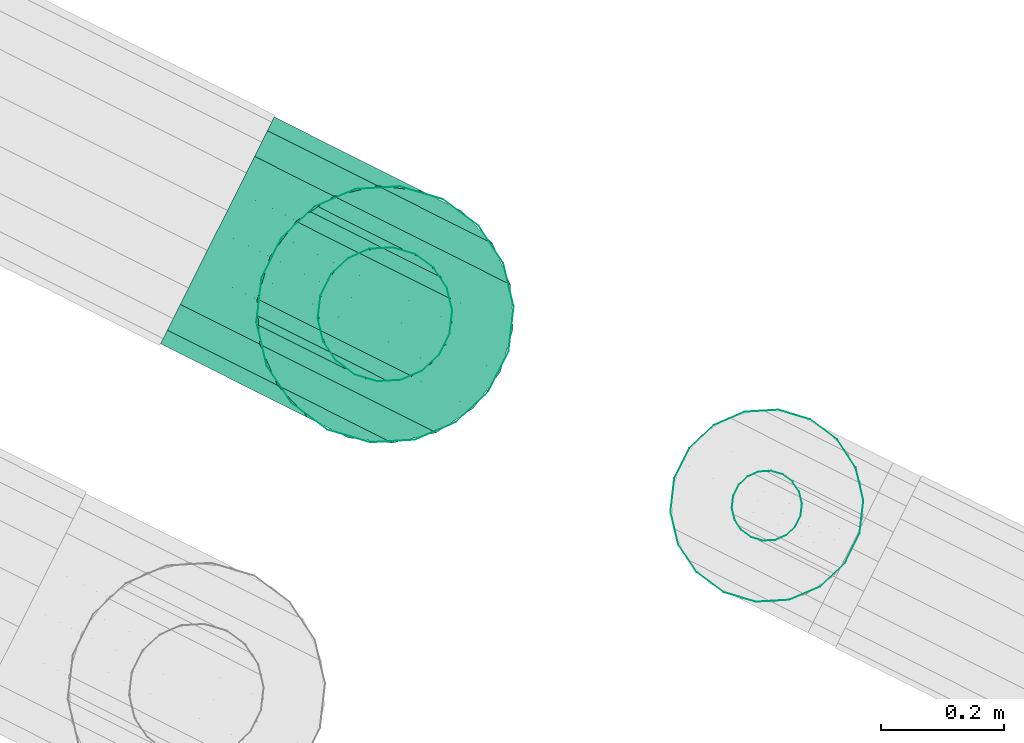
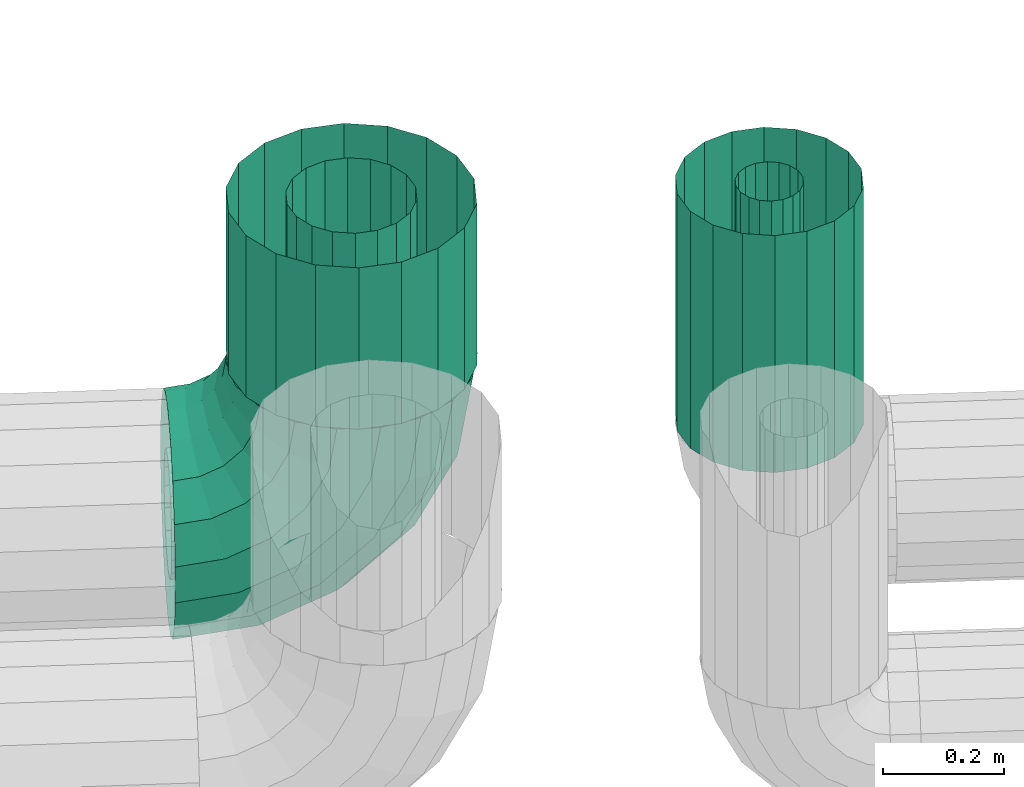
# One storey, part 169 of 206: 3 flow segments.
"""IFC2X3 building model written with IfcOpenShell, lengths in metres."""

from ifc_helpers import new_model, si_unit, derived_unit, direction, frame, origin, place, context, subcontext, project, spatial, face_set, surface_model, source, transform, mapped, material, type_object, type_shapes, element, save


model = new_model("IFC2X3")

# Units and contexts
model_context = context("Model", 3, precision=5.2338327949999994e-05, world=origin(), true_north=direction((0.0, 1.0)))
body_context = subcontext(model_context, "Body", "Model", "MODEL_VIEW")
ifc_project = project(units=[si_unit("LENGTHUNIT", "METRE"), si_unit("AREAUNIT", "SQUARE_METRE"), si_unit("VOLUMEUNIT", "CUBIC_METRE"), si_unit("MASSUNIT", "GRAM", prefix="KILO"), si_unit("PLANEANGLEUNIT", "RADIAN"), derived_unit("THERMALTRANSMITTANCEUNIT", [(si_unit("MASSUNIT", "GRAM", prefix="KILO"), 1), (si_unit("THERMODYNAMICTEMPERATUREUNIT", "KELVIN"), -1), (si_unit("TIMEUNIT", "SECOND"), -3)])], contexts=[model_context])

# Site, building, storey
site_placement = place(None, frame((0.0, 0.0, 0.0), z_axis=(0.0, 0.0, 1.0), x_axis=(0.8939966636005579, -0.4480736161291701, 0.0)))
site = spatial("IfcSite", under=ifc_project, at=site_placement, Name="Default", CompositionType="ELEMENT")
building_placement = place(site_placement, origin())
building = spatial("IfcBuilding", under=site, at=building_placement, CompositionType="ELEMENT")
storey_placement = place(building_placement, origin())
storey = spatial("IfcBuildingStorey", under=building, at=storey_placement, Name="Erdgeschoss", CompositionType="ELEMENT", Elevation=0.0)

# Flow segments
ifc_material = material(Name="IfcSurfaceStyle #1741")
distribution_element_type_1 = type_object("IfcDistributionElementType", Name="Rohrbogen 304636:Rohrbogen 304636", material=ifc_material)
shared_shape_1 = source(origin(), body_context, "Body", "SurfaceModel", [
    surface_model("IfcFaceBasedSurfaceModel", [(6.282437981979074, 8.012208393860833, 2.2082484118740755), (6.282437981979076, 8.049676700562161, 2.2148550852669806), (6.408499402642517, 8.049676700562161, 2.2348212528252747), (6.410540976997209, 8.012208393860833, 2.228537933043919), (6.522221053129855, 8.049676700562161, 2.2927653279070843), (6.526104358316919, 8.012208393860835, 2.2874204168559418), (6.612471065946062, 8.049676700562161, 2.383015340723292), (6.61781597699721, 8.012208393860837, 2.379132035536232), (6.670415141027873, 8.049676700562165, 2.496736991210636), (6.6766984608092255, 8.012208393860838, 2.4946954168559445), (6.690381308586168, 8.049676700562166, 2.6227984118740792), (6.696987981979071, 8.01220839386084, 2.62279841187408), (6.282437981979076, 8.082625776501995, 2.2338782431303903), (6.402620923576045, 8.082625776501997, 2.2529133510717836), (6.51103952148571, 8.082625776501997, 2.308155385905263), (6.597081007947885, 8.082625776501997, 2.3941968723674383), (6.652323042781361, 8.082625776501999, 2.5026154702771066), (6.671358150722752, 8.082625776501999, 2.6227984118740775), (6.282437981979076, 8.107081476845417, 2.263023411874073), (6.393614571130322, 8.10708147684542, 2.2806320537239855), (6.493908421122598, 8.107081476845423, 2.331734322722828), (6.573502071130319, 8.107081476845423, 2.411327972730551), (6.624604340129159, 8.107081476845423, 2.5116218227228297), (6.6422129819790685, 8.107081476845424, 2.622798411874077), (6.282437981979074, 8.120094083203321, 2.2987752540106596), (6.382566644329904, 8.120094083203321, 2.3146340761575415), (6.4728940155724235, 8.120094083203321, 2.3606581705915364), (6.54457822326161, 8.120094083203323, 2.4323423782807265), (6.590602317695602, 8.120094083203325, 2.5226697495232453), (6.606461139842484, 8.120094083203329, 2.6227984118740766), (6.282437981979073, 8.120094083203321, 2.3368215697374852), (6.37080968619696, 8.120094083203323, 2.3508182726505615), (6.450530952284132, 8.120094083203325, 2.39143828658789), (6.513798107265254, 8.120094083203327, 2.454705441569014), (6.554418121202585, 8.120094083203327, 2.5344267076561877), (6.568414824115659, 8.120094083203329, 2.6227984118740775), (6.282437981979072, 8.107081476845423, 2.3725734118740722), (6.3597617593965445, 8.107081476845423, 2.3848202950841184), (6.429516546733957, 8.107081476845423, 2.420362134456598), (6.484874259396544, 8.107081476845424, 2.4757198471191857), (6.520416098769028, 8.107081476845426, 2.5454746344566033), (6.5326629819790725, 8.107081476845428, 2.6227984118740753), (6.282437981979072, 8.082625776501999, 2.4017185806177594), (6.350755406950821, 8.082625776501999, 2.4125389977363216), (6.412385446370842, 8.082625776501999, 2.443941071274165), (6.461295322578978, 8.082625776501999, 2.492850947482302), (6.492697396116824, 8.082625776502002, 2.554480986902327), (6.503517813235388, 8.082625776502, 2.6227984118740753), (6.282437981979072, 8.049676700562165, 2.420741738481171), (6.344876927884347, 8.049676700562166, 2.4306310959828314), (6.401203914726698, 8.049676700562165, 2.4593311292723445), (6.4459052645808, 8.049676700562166, 2.5040324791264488), (6.474605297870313, 8.049676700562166, 2.560359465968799), (6.484494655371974, 8.049676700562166, 2.6227984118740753), (6.282437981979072, 8.012208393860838, 2.4273484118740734), (6.342835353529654, 8.01220839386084, 2.4369144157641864), (6.397320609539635, 8.01220839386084, 2.4646760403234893), (6.440560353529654, 8.01220839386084, 2.507915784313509), (6.46832197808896, 8.012208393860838, 2.56240104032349), (6.477887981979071, 8.012208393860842, 2.6227984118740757), (6.282437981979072, 7.974740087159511, 2.4207417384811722), (6.344876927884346, 7.974740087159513, 2.4306310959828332), (6.401203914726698, 7.974740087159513, 2.459331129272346), (6.445905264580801, 7.974740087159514, 2.5040324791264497), (6.474605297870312, 7.974740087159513, 2.5603594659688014), (6.484494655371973, 7.974740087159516, 2.622798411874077), (6.282437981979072, 7.941791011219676, 2.4017185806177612), (6.350755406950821, 7.941791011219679, 2.412538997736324), (6.412385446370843, 7.941791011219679, 2.4439410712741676), (6.461295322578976, 7.94179101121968, 2.492850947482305), (6.492697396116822, 7.941791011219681, 2.55448098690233), (6.503517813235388, 7.941791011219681, 2.622798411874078), (6.282437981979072, 7.917335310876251, 2.3725734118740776), (6.3597617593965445, 7.91733531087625, 2.384820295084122), (6.429516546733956, 7.917335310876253, 2.420362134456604), (6.484874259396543, 7.917335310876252, 2.475719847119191), (6.520416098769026, 7.917335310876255, 2.545474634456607), (6.532662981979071, 7.917335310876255, 2.6227984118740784), (6.282437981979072, 7.904322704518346, 2.336821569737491), (6.370809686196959, 7.904322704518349, 2.3508182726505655), (6.450530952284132, 7.904322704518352, 2.391438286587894), (6.513798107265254, 7.904322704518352, 2.4547054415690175), (6.554418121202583, 7.904322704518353, 2.534426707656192), (6.568414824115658, 7.9043227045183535, 2.622798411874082), (6.282437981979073, 7.904322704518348, 2.298775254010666), (6.382566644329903, 7.904322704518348, 2.3146340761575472), (6.472894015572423, 7.904322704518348, 2.3606581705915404), (6.544578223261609, 7.904322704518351, 2.4323423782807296), (6.590602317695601, 7.904322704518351, 2.5226697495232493), (6.606461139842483, 7.904322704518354, 2.6227984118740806), (6.282437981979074, 7.917335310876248, 2.263023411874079), (6.393614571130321, 7.917335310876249, 2.280632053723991), (6.4939084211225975, 7.91733531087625, 2.331734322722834), (6.573502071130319, 7.917335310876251, 2.411327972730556), (6.624604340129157, 7.917335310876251, 2.5116218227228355), (6.6422129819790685, 7.917335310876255, 2.6227984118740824), (6.282437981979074, 7.941791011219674, 2.233878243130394), (6.402620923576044, 7.941791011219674, 2.252913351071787), (6.51103952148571, 7.941791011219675, 2.3081553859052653), (6.597081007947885, 7.941791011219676, 2.3941968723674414), (6.65232304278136, 7.94179101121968, 2.502615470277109), (6.671358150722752, 7.941791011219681, 2.62279841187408), (6.282437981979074, 7.974740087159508, 2.2148550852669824), (6.408499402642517, 7.974740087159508, 2.234821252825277), (6.522221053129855, 7.9747400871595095, 2.2927653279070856), (6.612471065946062, 7.974740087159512, 2.383015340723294), (6.670415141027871, 7.974740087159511, 2.4967369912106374), (6.690381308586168, 7.974740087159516, 2.62279841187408), (6.2824379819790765, 8.012208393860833, 2.1082484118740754), (6.282437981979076, 8.083878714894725, 2.1208858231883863), (6.437537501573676, 8.083878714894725, 2.1454511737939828), (6.441442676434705, 8.012208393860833, 2.133432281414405), (6.577454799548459, 8.083878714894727, 2.2167425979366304), (6.584882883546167, 8.012208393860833, 2.2065187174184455), (6.688493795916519, 8.083878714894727, 2.3277815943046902), (6.698717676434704, 8.012208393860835, 2.3203535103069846), (6.759785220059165, 8.083878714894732, 2.4676988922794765), (6.771804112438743, 8.012208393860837, 2.4637937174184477), (6.784350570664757, 8.083878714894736, 2.622798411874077), (6.796987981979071, 8.012208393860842, 2.62279841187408), (6.2824379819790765, 8.146904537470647, 2.157273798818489), (6.426292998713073, 8.146904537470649, 2.1800581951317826), (6.556066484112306, 8.146904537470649, 2.2461810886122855), (6.659055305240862, 8.14690453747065, 2.3491699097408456), (6.725178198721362, 8.146904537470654, 2.478943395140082), (6.747962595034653, 8.146904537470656, 2.62279841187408), (6.282437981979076, 8.193684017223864, 2.2130234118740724), (6.409065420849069, 8.193684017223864, 2.233079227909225), (6.523297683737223, 8.193684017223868, 2.29128347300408), (6.6139529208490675, 8.193684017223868, 2.3819387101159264), (6.672157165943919, 8.19368401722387, 2.4961709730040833), (6.69221298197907, 8.193684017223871, 2.6227984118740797), (6.282437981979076, 8.218574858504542, 2.2814104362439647), (6.387932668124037, 8.218574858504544, 2.2981191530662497), (6.483100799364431, 8.218574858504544, 2.3466097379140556), (6.558626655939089, 8.218574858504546, 2.4221355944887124), (6.607117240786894, 8.218574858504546, 2.51730372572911), (6.623825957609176, 8.21857485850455, 2.622798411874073), (6.282437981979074, 8.218574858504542, 2.354186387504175), (6.365443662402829, 8.218574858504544, 2.3673331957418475), (6.440324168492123, 8.218574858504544, 2.4054867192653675), (6.4997496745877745, 8.218574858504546, 2.464912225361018), (6.537903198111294, 8.218574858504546, 2.5397927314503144), (6.551050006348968, 8.218574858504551, 2.622798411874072), (6.282437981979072, 8.193684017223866, 2.42257341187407), (6.344310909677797, 8.193684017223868, 2.4323731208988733), (6.400127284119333, 8.19368401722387, 2.460812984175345), (6.444423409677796, 8.193684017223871, 2.5051091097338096), (6.472863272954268, 8.193684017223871, 2.560925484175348), (6.482662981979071, 8.193684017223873, 2.6227984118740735), (6.282437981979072, 8.146904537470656, 2.4783230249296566), (6.327083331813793, 8.146904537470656, 2.4853941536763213), (6.3673584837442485, 8.146904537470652, 2.5059153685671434), (6.3993210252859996, 8.146904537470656, 2.5378779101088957), (6.419842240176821, 8.146904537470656, 2.578153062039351), (6.426913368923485, 8.146904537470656, 2.622798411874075), (6.282437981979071, 8.083878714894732, 2.5147110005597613), (6.315838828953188, 8.083878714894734, 2.5200011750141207), (6.345970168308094, 8.083878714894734, 2.5353538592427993), (6.369882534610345, 8.083878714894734, 2.55926622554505), (6.385235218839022, 8.083878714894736, 2.5893975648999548), (6.390525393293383, 8.083878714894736, 2.622798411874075), (6.282437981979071, 8.01220839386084, 2.5273484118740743), (6.311933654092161, 8.012208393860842, 2.532020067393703), (6.338542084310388, 8.01220839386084, 2.545577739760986), (6.3596586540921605, 8.012208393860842, 2.5666943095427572), (6.373216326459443, 8.012208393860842, 2.593302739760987), (6.377887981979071, 8.012208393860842, 2.6227984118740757), (6.2824379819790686, 7.940538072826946, 2.5147110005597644), (6.315838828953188, 7.940538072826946, 2.520001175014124), (6.345970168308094, 7.940538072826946, 2.535353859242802), (6.369882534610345, 7.940538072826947, 2.559266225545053), (6.385235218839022, 7.940538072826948, 2.5893975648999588), (6.390525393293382, 7.940538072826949, 2.622798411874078), (6.282437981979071, 7.877512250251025, 2.478323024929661), (6.3270833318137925, 7.877512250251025, 2.485394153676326), (6.367358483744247, 7.877512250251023, 2.505915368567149), (6.399321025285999, 7.8775122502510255, 2.537877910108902), (6.419842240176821, 7.877512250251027, 2.5781530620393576), (6.426913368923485, 7.877512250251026, 2.62279841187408), (6.282437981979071, 7.83073277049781, 2.422573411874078), (6.3443109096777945, 7.83073277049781, 2.432373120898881), (6.400127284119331, 7.83073277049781, 2.4608129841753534), (6.444423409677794, 7.83073277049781, 2.505109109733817), (6.4728632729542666, 7.830732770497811, 2.5609254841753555), (6.48266298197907, 7.830732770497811, 2.622798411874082), (6.282437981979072, 7.805841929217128, 2.354186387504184), (6.365443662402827, 7.805841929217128, 2.3673331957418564), (6.440324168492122, 7.805841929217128, 2.4054867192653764), (6.499749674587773, 7.805841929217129, 2.464912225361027), (6.537903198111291, 7.80584192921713, 2.539792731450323), (6.551050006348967, 7.8058419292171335, 2.6227984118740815), (6.282437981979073, 7.805841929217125, 2.281410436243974), (6.387932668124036, 7.805841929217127, 2.2981191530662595), (6.48310079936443, 7.805841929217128, 2.346609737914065), (6.558626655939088, 7.80584192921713, 2.422135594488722), (6.607117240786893, 7.805841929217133, 2.5173037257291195), (6.623825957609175, 7.805841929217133, 2.622798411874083), (6.282437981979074, 7.8307327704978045, 2.2130234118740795), (6.4090654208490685, 7.8307327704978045, 2.233079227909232), (6.523297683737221, 7.830732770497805, 2.2912834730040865), (6.6139529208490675, 7.830732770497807, 2.381938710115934), (6.672157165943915, 7.830732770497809, 2.496170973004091), (6.692212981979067, 7.830732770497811, 2.6227984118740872), (6.282437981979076, 7.877512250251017, 2.1572737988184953), (6.426292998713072, 7.877512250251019, 2.180058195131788), (6.556066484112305, 7.87751225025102, 2.2461810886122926), (6.659055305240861, 7.87751225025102, 2.349169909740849), (6.725178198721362, 7.877512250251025, 2.478943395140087), (6.74796259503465, 7.8775122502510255, 2.6227984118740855), (6.2824379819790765, 7.9405380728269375, 2.12088582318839), (6.4375375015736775, 7.9405380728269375, 2.1454511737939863), (6.577454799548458, 7.940538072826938, 2.2167425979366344), (6.688493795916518, 7.940538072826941, 2.3277815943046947), (6.759785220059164, 7.940538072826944, 2.467698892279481), (6.784350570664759, 7.940538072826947, 2.6227984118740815)], [face_set([[[0, 1, 2, 3]], [[3, 2, 4, 5]], [[5, 4, 6, 7]], [[7, 6, 8, 9]], [[9, 8, 10, 11]], [[1, 12, 13, 2]], [[2, 13, 14, 4]], [[4, 14, 15, 6]], [[6, 15, 16, 8]], [[8, 16, 17, 10]], [[12, 18, 19, 13]], [[13, 19, 20, 14]], [[14, 20, 21, 15]], [[15, 21, 22, 16]], [[16, 22, 23, 17]], [[18, 24, 25, 19]], [[19, 25, 26, 20]], [[20, 26, 27, 21]], [[21, 27, 28, 22]], [[22, 28, 29, 23]], [[24, 30, 31, 25]], [[25, 31, 32, 26]], [[26, 32, 33, 27]], [[27, 33, 34, 28]], [[28, 34, 35, 29]], [[30, 36, 37, 31]], [[31, 37, 38, 32]], [[32, 38, 39, 33]], [[33, 39, 40, 34]], [[34, 40, 41, 35]], [[36, 42, 43, 37]], [[37, 43, 44, 38]], [[38, 44, 45, 39]], [[39, 45, 46, 40]], [[40, 46, 47, 41]], [[42, 48, 49, 43]], [[43, 49, 50, 44]], [[44, 50, 51, 45]], [[45, 51, 52, 46]], [[46, 52, 53, 47]], [[48, 54, 55, 49]], [[49, 55, 56, 50]], [[50, 56, 57, 51]], [[51, 57, 58, 52]], [[52, 58, 59, 53]], [[54, 60, 61, 55]], [[55, 61, 62, 56]], [[56, 62, 63, 57]], [[57, 63, 64, 58]], [[58, 64, 65, 59]], [[60, 66, 67, 61]], [[61, 67, 68, 62]], [[62, 68, 69, 63]], [[63, 69, 70, 64]], [[64, 70, 71, 65]], [[66, 72, 73, 67]], [[67, 73, 74, 68]], [[68, 74, 75, 69]], [[69, 75, 76, 70]], [[70, 76, 77, 71]], [[72, 78, 79, 73]], [[73, 79, 80, 74]], [[74, 80, 81, 75]], [[75, 81, 82, 76]], [[76, 82, 83, 77]], [[78, 84, 85, 79]], [[79, 85, 86, 80]], [[80, 86, 87, 81]], [[81, 87, 88, 82]], [[82, 88, 89, 83]], [[84, 90, 91, 85]], [[85, 91, 92, 86]], [[86, 92, 93, 87]], [[87, 93, 94, 88]], [[88, 94, 95, 89]], [[90, 96, 97, 91]], [[91, 97, 98, 92]], [[92, 98, 99, 93]], [[93, 99, 100, 94]], [[94, 100, 101, 95]], [[96, 102, 103, 97]], [[97, 103, 104, 98]], [[98, 104, 105, 99]], [[99, 105, 106, 100]], [[100, 106, 107, 101]], [[102, 0, 3, 103]], [[103, 3, 5, 104]], [[104, 5, 7, 105]], [[105, 7, 9, 106]], [[106, 9, 11, 107]], [[108, 109, 110, 111]], [[111, 110, 112, 113]], [[113, 112, 114, 115]], [[115, 114, 116, 117]], [[117, 116, 118, 119]], [[109, 120, 121, 110]], [[110, 121, 122, 112]], [[112, 122, 123, 114]], [[114, 123, 124, 116]], [[116, 124, 125, 118]], [[120, 126, 127, 121]], [[121, 127, 128, 122]], [[122, 128, 129, 123]], [[123, 129, 130, 124]], [[124, 130, 131, 125]], [[126, 132, 133, 127]], [[127, 133, 134, 128]], [[128, 134, 135, 129]], [[129, 135, 136, 130]], [[130, 136, 137, 131]], [[132, 138, 139, 133]], [[133, 139, 140, 134]], [[134, 140, 141, 135]], [[135, 141, 142, 136]], [[136, 142, 143, 137]], [[138, 144, 145, 139]], [[139, 145, 146, 140]], [[140, 146, 147, 141]], [[141, 147, 148, 142]], [[142, 148, 149, 143]], [[144, 150, 151, 145]], [[145, 151, 152, 146]], [[146, 152, 153, 147]], [[147, 153, 154, 148]], [[148, 154, 155, 149]], [[150, 156, 157, 151]], [[151, 157, 158, 152]], [[152, 158, 159, 153]], [[153, 159, 160, 154]], [[154, 160, 161, 155]], [[156, 162, 163, 157]], [[157, 163, 164, 158]], [[158, 164, 165, 159]], [[159, 165, 166, 160]], [[160, 166, 167, 161]], [[162, 168, 169, 163]], [[163, 169, 170, 164]], [[164, 170, 171, 165]], [[165, 171, 172, 166]], [[166, 172, 173, 167]], [[168, 174, 175, 169]], [[169, 175, 176, 170]], [[170, 176, 177, 171]], [[171, 177, 178, 172]], [[172, 178, 179, 173]], [[174, 180, 181, 175]], [[175, 181, 182, 176]], [[176, 182, 183, 177]], [[177, 183, 184, 178]], [[178, 184, 185, 179]], [[180, 186, 187, 181]], [[181, 187, 188, 182]], [[182, 188, 189, 183]], [[183, 189, 190, 184]], [[184, 190, 191, 185]], [[186, 192, 193, 187]], [[187, 193, 194, 188]], [[188, 194, 195, 189]], [[189, 195, 196, 190]], [[190, 196, 197, 191]], [[192, 198, 199, 193]], [[193, 199, 200, 194]], [[194, 200, 201, 195]], [[195, 201, 202, 196]], [[196, 202, 203, 197]], [[198, 204, 205, 199]], [[199, 205, 206, 200]], [[200, 206, 207, 201]], [[201, 207, 208, 202]], [[202, 208, 209, 203]], [[204, 210, 211, 205]], [[205, 211, 212, 206]], [[206, 212, 213, 207]], [[207, 213, 214, 208]], [[208, 214, 215, 209]], [[210, 108, 111, 211]], [[211, 111, 113, 212]], [[212, 113, 115, 213]], [[213, 115, 117, 214]], [[214, 117, 119, 215]]])]),
])
type_shapes(distribution_element_type_1, [shared_shape_1])
flow_segment_1_placement = place(storey_placement, origin())
element("IfcFlowSegment", 1, at=flow_segment_1_placement, inside=storey, type_object=distribution_element_type_1, material=ifc_material, Name="Rohrbogen", ObjectType="Rohrbogen", context=body_context, shape_type="MappedRepresentation", body=[
    mapped(shared_shape_1, transform((0.0, 0.0, 0.0), scale=1.0)),
])
distribution_element_type_2 = type_object("IfcDistributionElementType", Name="Stahlrohr nach DIN 2448 304682:Stahlrohr nach DIN 2448 304682", material=ifc_material)
shared_shape_2 = source(origin(), body_context, "Body", "SurfaceModel", [
    surface_model("IfcFaceBasedSurfaceModel", [(6.5874379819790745, 7.902658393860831, 2.6227984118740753), (6.6249062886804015, 7.909265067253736, 2.6227984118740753), (6.624906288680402, 7.909265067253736, 2.95), (6.587437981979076, 7.902658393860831, 2.95), (6.657855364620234, 7.928288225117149, 2.6227984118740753), (6.657855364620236, 7.928288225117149, 2.95), (6.682311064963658, 7.957433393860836, 2.6227984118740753), (6.6823110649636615, 7.957433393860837, 2.95), (6.695323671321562, 7.993185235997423, 2.6227984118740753), (6.695323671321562, 7.993185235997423, 2.95), (6.6953236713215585, 8.031231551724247, 2.6227984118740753), (6.695323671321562, 8.031231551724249, 2.95), (6.682311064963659, 8.066983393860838, 2.6227984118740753), (6.682311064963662, 8.066983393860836, 2.95), (6.657855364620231, 8.09612856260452, 2.6227984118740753), (6.657855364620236, 8.09612856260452, 2.95), (6.624906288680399, 8.115151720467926, 2.6227984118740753), (6.6249062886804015, 8.11515172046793, 2.95), (6.587437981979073, 8.121758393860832, 2.6227984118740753), (6.587437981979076, 8.121758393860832, 2.95), (6.5499696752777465, 8.115151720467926, 2.6227984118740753), (6.549969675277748, 8.115151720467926, 2.95), (6.517020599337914, 8.096128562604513, 2.6227984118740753), (6.517020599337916, 8.096128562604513, 2.95), (6.492564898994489, 8.066983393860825, 2.6227984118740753), (6.492564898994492, 8.066983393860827, 2.95), (6.479552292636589, 8.031231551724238, 2.6227984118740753), (6.47955229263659, 8.03123155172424, 2.95), (6.479552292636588, 7.993185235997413, 2.6227984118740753), (6.479552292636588, 7.993185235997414, 2.95), (6.492564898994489, 7.9574333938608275, 2.6227984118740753), (6.492564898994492, 7.957433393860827, 2.95), (6.517020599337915, 7.928288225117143, 2.6227984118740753), (6.517020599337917, 7.928288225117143, 2.95), (6.549969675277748, 7.909265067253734, 2.6227984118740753), (6.549969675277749, 7.909265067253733, 2.95), (6.587437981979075, 7.8026583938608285, 2.6227984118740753), (6.659108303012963, 7.815295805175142, 2.6227984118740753), (6.659108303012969, 7.815295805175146, 2.95), (6.587437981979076, 7.80265839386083, 2.95), (6.7221341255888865, 7.851683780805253, 2.6227984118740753), (6.72213412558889, 7.8516837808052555, 2.95), (6.768913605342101, 7.90743339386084, 2.6227984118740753), (6.768913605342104, 7.907433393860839, 2.95), (6.793804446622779, 7.975820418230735, 2.6227984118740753), (6.793804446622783, 7.975820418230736, 2.95), (6.793804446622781, 8.048596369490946, 2.6227984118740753), (6.793804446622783, 8.048596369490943, 2.95), (6.7689136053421, 8.11698339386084, 2.6227984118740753), (6.768913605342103, 8.11698339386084, 2.95), (6.722134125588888, 8.172733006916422, 2.6227984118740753), (6.72213412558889, 8.17273300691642, 2.95), (6.659108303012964, 8.20912098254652, 2.6227984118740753), (6.659108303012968, 8.209120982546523, 2.95), (6.587437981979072, 8.22175839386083, 2.6227984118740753), (6.587437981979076, 8.221758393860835, 2.95), (6.515767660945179, 8.20912098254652, 2.6227984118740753), (6.515767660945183, 8.20912098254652, 2.95), (6.452741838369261, 8.172733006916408, 2.6227984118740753), (6.452741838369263, 8.172733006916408, 2.95), (6.405962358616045, 8.116983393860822, 2.6227984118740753), (6.4059623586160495, 8.116983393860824, 2.95), (6.381071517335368, 8.048596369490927, 2.6227984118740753), (6.38107151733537, 8.048596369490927, 2.95), (6.381071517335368, 7.975820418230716, 2.6227984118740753), (6.381071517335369, 7.975820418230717, 2.95), (6.405962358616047, 7.9074333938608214, 2.6227984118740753), (6.4059623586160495, 7.9074333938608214, 2.95), (6.452741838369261, 7.851683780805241, 2.6227984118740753), (6.4527418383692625, 7.851683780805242, 2.95), (6.515767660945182, 7.81529580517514, 2.6227984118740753), (6.5157676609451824, 7.8152958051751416, 2.95)], [face_set([[[0, 1, 2, 3]], [[1, 4, 5, 2]], [[4, 6, 7, 5]], [[6, 8, 9, 7]], [[8, 10, 11, 9]], [[10, 12, 13, 11]], [[12, 14, 15, 13]], [[14, 16, 17, 15]], [[16, 18, 19, 17]], [[18, 20, 21, 19]], [[20, 22, 23, 21]], [[22, 24, 25, 23]], [[24, 26, 27, 25]], [[26, 28, 29, 27]], [[28, 30, 31, 29]], [[30, 32, 33, 31]], [[32, 34, 35, 33]], [[34, 0, 3, 35]], [[36, 37, 38, 39]], [[37, 40, 41, 38]], [[40, 42, 43, 41]], [[42, 44, 45, 43]], [[44, 46, 47, 45]], [[46, 48, 49, 47]], [[48, 50, 51, 49]], [[50, 52, 53, 51]], [[52, 54, 55, 53]], [[54, 56, 57, 55]], [[56, 58, 59, 57]], [[58, 60, 61, 59]], [[60, 62, 63, 61]], [[62, 64, 65, 63]], [[64, 66, 67, 65]], [[66, 68, 69, 67]], [[68, 70, 71, 69]], [[70, 36, 39, 71]]])]),
])
type_shapes(distribution_element_type_2, [shared_shape_2])
flow_segment_2_placement = place(storey_placement, origin())
element("IfcFlowSegment", 2, at=flow_segment_2_placement, inside=storey, type_object=distribution_element_type_2, material=ifc_material, Name="Stahlrohr nach DIN 2448", ObjectType="Stahlrohr nach DIN 2448", context=body_context, shape_type="MappedRepresentation", body=[
    mapped(shared_shape_2, transform((0.0, 0.0, 0.0), scale=1.0)),
])
distribution_element_type_3 = type_object("IfcDistributionElementType", Name="Stahlrohr nach DIN 2448 304705:Stahlrohr nach DIN 2448 304705", material=ifc_material)
shared_shape_3 = source(origin(), body_context, "Body", "SurfaceModel", [
    surface_model("IfcFaceBasedSurfaceModel", [(7.282241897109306, 7.955058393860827, 2.469798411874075), (7.301788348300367, 7.958504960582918, 2.469798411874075), (7.3017883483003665, 7.958504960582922, 2.95), (7.282241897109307, 7.955058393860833, 2.95), (7.318977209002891, 7.968428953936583, 2.469798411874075), (7.3189772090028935, 7.968428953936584, 2.95), (7.331735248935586, 7.9836333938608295, 2.469798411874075), (7.33173524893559, 7.98363339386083, 2.95), (7.338523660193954, 8.002284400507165, 2.469798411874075), (7.338523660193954, 8.002284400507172, 2.95), (7.338523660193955, 8.022132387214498, 2.469798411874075), (7.338523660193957, 8.022132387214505, 2.95), (7.331735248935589, 8.040783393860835, 2.469798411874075), (7.3317352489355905, 8.040783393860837, 2.95), (7.318977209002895, 8.055987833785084, 2.469798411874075), (7.318977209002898, 8.055987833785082, 2.95), (7.301788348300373, 8.065911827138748, 2.469798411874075), (7.301788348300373, 8.06591182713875, 2.95), (7.282241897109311, 8.069358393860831, 2.469798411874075), (7.282241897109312, 8.069358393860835, 2.95), (7.262695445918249, 8.065911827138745, 2.469798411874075), (7.262695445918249, 8.065911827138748, 2.95), (7.2455065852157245, 8.055987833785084, 2.469798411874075), (7.245506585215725, 8.055987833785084, 2.95), (7.232748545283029, 8.040783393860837, 2.469798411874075), (7.23274854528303, 8.040783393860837, 2.95), (7.225960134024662, 8.022132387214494, 2.469798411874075), (7.225960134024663, 8.022132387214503, 2.95), (7.225960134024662, 8.002284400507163, 2.469798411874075), (7.225960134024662, 8.002284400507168, 2.95), (7.232748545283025, 7.98363339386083, 2.469798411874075), (7.232748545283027, 7.98363339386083, 2.95), (7.245506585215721, 7.968428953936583, 2.469798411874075), (7.245506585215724, 7.968428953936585, 2.95), (7.262695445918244, 7.958504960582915, 2.469798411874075), (7.262695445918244, 7.958504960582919, 2.95), (7.2822418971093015, 7.855058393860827, 2.469798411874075), (7.335990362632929, 7.864535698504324, 2.469798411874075), (7.3359903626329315, 7.864535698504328, 2.95), (7.282241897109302, 7.855058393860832, 2.95), (7.383255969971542, 7.891824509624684, 2.469798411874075), (7.383255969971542, 7.891824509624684, 2.95), (7.418337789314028, 7.933633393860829, 2.469798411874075), (7.418337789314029, 7.933633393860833, 2.95), (7.437004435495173, 7.984919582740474, 2.469798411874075), (7.437004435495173, 7.984919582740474, 2.95), (7.437004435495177, 8.039497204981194, 2.469798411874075), (7.437004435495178, 8.039497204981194, 2.95), (7.418337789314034, 8.09078339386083, 2.469798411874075), (7.418337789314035, 8.090783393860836, 2.95), (7.383255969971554, 8.132592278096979, 2.469798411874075), (7.383255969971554, 8.132592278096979, 2.95), (7.335990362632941, 8.159881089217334, 2.469798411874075), (7.335990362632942, 8.15988108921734, 2.95), (7.282241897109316, 8.16935839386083, 2.469798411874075), (7.282241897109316, 8.16935839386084, 2.95), (7.228493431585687, 8.159881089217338, 2.469798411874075), (7.228493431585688, 8.159881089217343, 2.95), (7.181227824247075, 8.132592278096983, 2.469798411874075), (7.181227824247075, 8.132592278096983, 2.95), (7.146146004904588, 8.090783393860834, 2.469798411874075), (7.146146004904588, 8.090783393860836, 2.95), (7.127479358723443, 8.039497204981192, 2.469798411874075), (7.127479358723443, 8.039497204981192, 2.95), (7.127479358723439, 7.984919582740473, 2.469798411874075), (7.127479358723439, 7.984919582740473, 2.95), (7.146146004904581, 7.933633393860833, 2.469798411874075), (7.1461460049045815, 7.933633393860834, 2.95), (7.181227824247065, 7.891824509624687, 2.469798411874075), (7.181227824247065, 7.891824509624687, 2.95), (7.228493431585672, 7.864535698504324, 2.469798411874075), (7.228493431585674, 7.864535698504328, 2.95)], [face_set([[[0, 1, 2, 3]], [[1, 4, 5, 2]], [[4, 6, 7, 5]], [[6, 8, 9, 7]], [[8, 10, 11, 9]], [[10, 12, 13, 11]], [[12, 14, 15, 13]], [[14, 16, 17, 15]], [[16, 18, 19, 17]], [[18, 20, 21, 19]], [[20, 22, 23, 21]], [[22, 24, 25, 23]], [[24, 26, 27, 25]], [[26, 28, 29, 27]], [[28, 30, 31, 29]], [[30, 32, 33, 31]], [[32, 34, 35, 33]], [[34, 0, 3, 35]], [[36, 37, 38, 39]], [[37, 40, 41, 38]], [[40, 42, 43, 41]], [[42, 44, 45, 43]], [[44, 46, 47, 45]], [[46, 48, 49, 47]], [[48, 50, 51, 49]], [[50, 52, 53, 51]], [[52, 54, 55, 53]], [[54, 56, 57, 55]], [[56, 58, 59, 57]], [[58, 60, 61, 59]], [[60, 62, 63, 61]], [[62, 64, 65, 63]], [[64, 66, 67, 65]], [[66, 68, 69, 67]], [[68, 70, 71, 69]], [[70, 36, 39, 71]]])]),
])
type_shapes(distribution_element_type_3, [shared_shape_3])
flow_segment_3_placement = place(storey_placement, origin())
element("IfcFlowSegment", 3, at=flow_segment_3_placement, inside=storey, type_object=distribution_element_type_3, material=ifc_material, Name="Stahlrohr nach DIN 2448", ObjectType="Stahlrohr nach DIN 2448", context=body_context, shape_type="MappedRepresentation", body=[
    mapped(shared_shape_3, transform((0.0, 0.0, 0.0), scale=1.0)),
])

save(model, "model.ifc")
